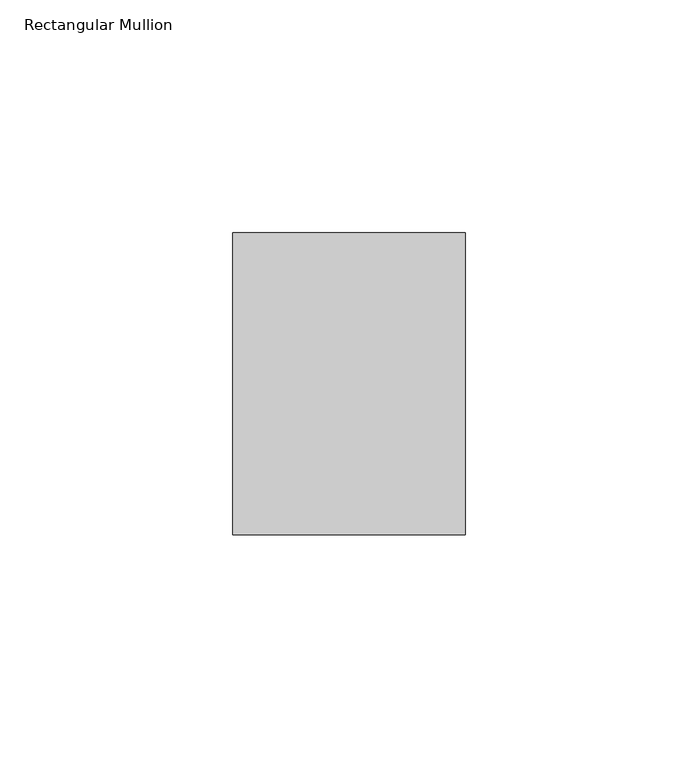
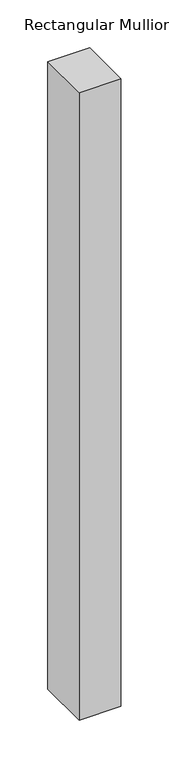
"""IFC4 building model written with IfcOpenShell, lengths in millimetres: member geometry, Rectangular Mullion : MCGRORY - Forster Fuego Light - 60 Min Rated - Side Mullion A."""

from ifc_helpers import new_model, si_unit, frame, origin, place, context, project, spatial, polyline, outline, extrude, source, transform, mapped, element, save


def rectangular_mullion_801593ba(model_context):
    return source(origin(), model_context, "Body", "SweptSolid", [
        extrude(outline(polyline([(-49.9781277, 32.485783), (0.0, 32.485783), (0.0, -32.485783), (-49.9781277, -32.485783), (-49.9781277, 32.485783)])), frame((0.0, 0.0, -798.0174978), z_axis=(0.0, 0.0, 1.0), x_axis=(1.0, 0.0, 0.0)), (0.0, 0.0, 1.0), 798.0174978),
    ])


if __name__ == "__main__":
    model = new_model("IFC4")
    model_context = context("Model", 3, world=origin())
    ifc_project = project(units=[si_unit("LENGTHUNIT", "METRE", prefix="MILLI")], contexts=[model_context])
    site = spatial("IfcSite", under=ifc_project)
    building = spatial("IfcBuilding", under=site)
    placement = place(None, origin())
    rectangular_mullion_shape = rectangular_mullion_801593ba(model_context)
    element("IfcMember", 1, ObjectType="Rectangular Mullion : MCGRORY - Forster Fuego Light - 60 Min Rated - Side Mullion A", at=placement, inside=building, context=model_context, shape_type="MappedRepresentation", body=[
        mapped(rectangular_mullion_shape, transform((0.0, 0.0, 0.0), x_axis=(1.0, 0.0, 0.0), y_axis=(0.0, 1.0, 0.0), z_axis=(0.0, 0.0, 1.0))),
    ])
    save(model, "model.ifc")
